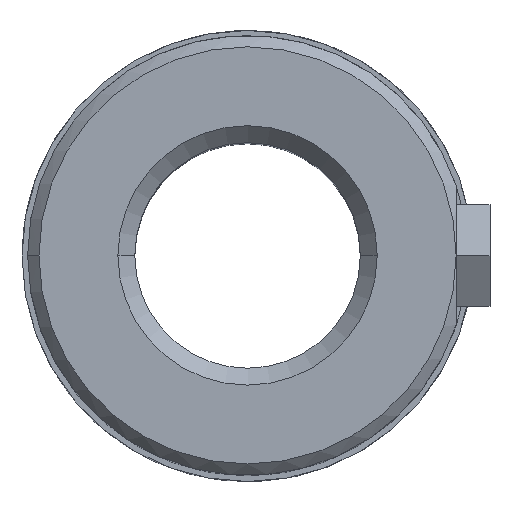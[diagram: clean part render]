
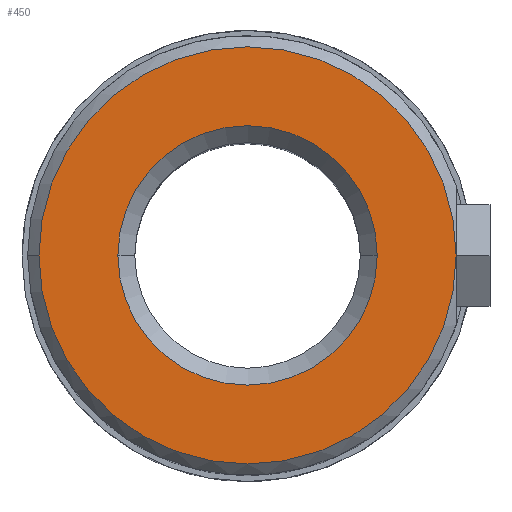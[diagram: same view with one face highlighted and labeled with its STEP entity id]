
A CAD part, top view. The second image highlights one B-rep face of the part: STEP entity #450.
In plain terms, the highlighted planar face has unit normal (0, 0, 1).
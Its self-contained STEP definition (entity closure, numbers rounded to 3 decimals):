
#332=CARTESIAN_POINT('Axis2P3D Location',(0.,0.,36.)) ;
#336=CARTESIAN_POINT('Vertex',(11.5,0.,36.)) ;
#338=CARTESIAN_POINT('Vertex',(-11.5,0.,36.)) ;
#394=CARTESIAN_POINT('Axis2P3D Location',(0.,0.,36.)) ;
#423=CARTESIAN_POINT('Axis2P3D Location',(11.5,0.,36.)) ;
#428=CARTESIAN_POINT('Axis2P3D Location',(0.,0.,36.)) ;
#432=CARTESIAN_POINT('Vertex',(18.5,0.,36.)) ;
#434=CARTESIAN_POINT('Vertex',(-18.5,0.,36.)) ;
#437=CARTESIAN_POINT('Axis2P3D Location',(0.,0.,36.)) ;
#333=DIRECTION('Axis2P3D Direction',(0.,-0.,1.)) ;
#395=DIRECTION('Axis2P3D Direction',(0.,-0.,1.)) ;
#424=DIRECTION('Axis2P3D Direction',(0.,-0.,1.)) ;
#425=DIRECTION('Axis2P3D XDirection',(1.,0.,0.)) ;
#429=DIRECTION('Axis2P3D Direction',(0.,-0.,1.)) ;
#438=DIRECTION('Axis2P3D Direction',(0.,-0.,1.)) ;
#334=AXIS2_PLACEMENT_3D('Circle Axis2P3D',#332,#333,$) ;
#396=AXIS2_PLACEMENT_3D('Circle Axis2P3D',#394,#395,$) ;
#426=AXIS2_PLACEMENT_3D('Plane Axis2P3D',#423,#424,#425) ;
#430=AXIS2_PLACEMENT_3D('Circle Axis2P3D',#428,#429,$) ;
#439=AXIS2_PLACEMENT_3D('Circle Axis2P3D',#437,#438,$) ;
#443=ORIENTED_EDGE('',*,*,#436,.T.) ;
#444=ORIENTED_EDGE('',*,*,#441,.T.) ;
#447=ORIENTED_EDGE('',*,*,#398,.F.) ;
#448=ORIENTED_EDGE('',*,*,#340,.F.) ;
#449=FACE_BOUND('',#446,.T.) ;
#450=ADVANCED_FACE('742-20',(#445,#449),#427,.T.) ;
#335=CIRCLE('generated circle',#334,11.5) ;
#397=CIRCLE('generated circle',#396,11.5) ;
#431=CIRCLE('generated circle',#430,18.5) ;
#440=CIRCLE('generated circle',#439,18.5) ;
#340=EDGE_CURVE('',#337,#339,#335,.T.) ;
#398=EDGE_CURVE('',#339,#337,#397,.T.) ;
#436=EDGE_CURVE('',#433,#435,#431,.T.) ;
#441=EDGE_CURVE('',#435,#433,#440,.T.) ;
#442=EDGE_LOOP('',(#443,#444)) ;
#446=EDGE_LOOP('',(#447,#448)) ;
#445=FACE_OUTER_BOUND('',#442,.T.) ;
#427=PLANE('Plane',#426) ;
#337=VERTEX_POINT('',#336) ;
#339=VERTEX_POINT('',#338) ;
#433=VERTEX_POINT('',#432) ;
#435=VERTEX_POINT('',#434) ;
